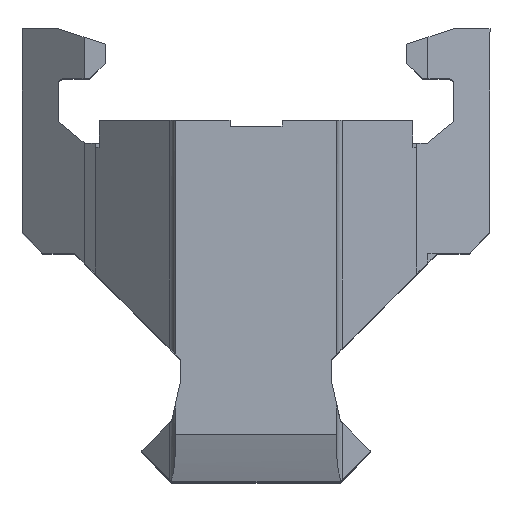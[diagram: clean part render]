
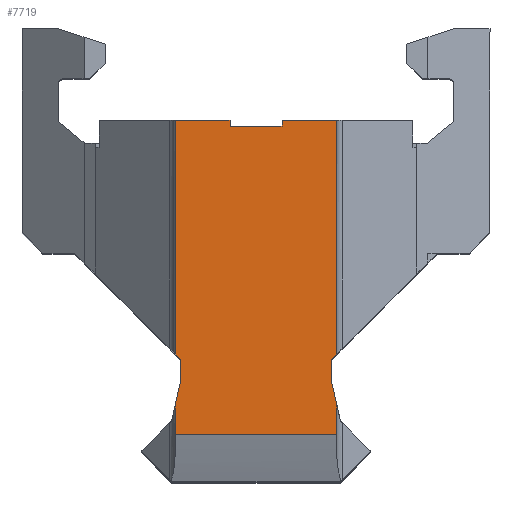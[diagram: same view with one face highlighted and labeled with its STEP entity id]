
A CAD part, top view. The second image highlights one B-rep face of the part: STEP entity #7719.
In plain terms, the highlighted planar face has unit normal (0, 0, 1).
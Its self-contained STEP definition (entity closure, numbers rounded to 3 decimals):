
#1120=FACE_OUTER_BOUND('',#1543,.T.);
#1543=EDGE_LOOP('',(#6987,#6988,#6989,#6990,#6991,#6992,#6993,#6994,#6995,
#6996,#6997,#6998,#6999,#7000,#7001,#7002));
#1658=LINE('',#9952,#2340);
#1985=LINE('',#13911,#2667);
#2019=LINE('',#13988,#2701);
#2022=LINE('',#13996,#2704);
#2058=LINE('',#14076,#2740);
#2059=LINE('',#14079,#2741);
#2126=LINE('',#14224,#2808);
#2127=LINE('',#14227,#2809);
#2129=LINE('',#14233,#2811);
#2217=LINE('',#14412,#2899);
#2218=LINE('',#14413,#2900);
#2219=LINE('',#14415,#2901);
#2220=LINE('',#14417,#2902);
#2221=LINE('',#14419,#2903);
#2222=LINE('',#14420,#2904);
#2223=LINE('',#14421,#2905);
#2340=VECTOR('',#8344,10.);
#2667=VECTOR('',#9159,10.);
#2701=VECTOR('',#9221,10.);
#2704=VECTOR('',#9228,10.);
#2740=VECTOR('',#9312,10.);
#2741=VECTOR('',#9315,10.);
#2808=VECTOR('',#9436,10.);
#2809=VECTOR('',#9439,10.);
#2811=VECTOR('',#9445,10.);
#2899=VECTOR('',#9647,10.);
#2900=VECTOR('',#9648,10.);
#2901=VECTOR('',#9649,10.);
#2902=VECTOR('',#9650,10.);
#2903=VECTOR('',#9651,10.);
#2904=VECTOR('',#9652,10.);
#2905=VECTOR('',#9653,10.);
#3018=VERTEX_POINT('',#9949);
#3019=VERTEX_POINT('',#9951);
#3530=VERTEX_POINT('',#13908);
#3531=VERTEX_POINT('',#13910);
#3560=VERTEX_POINT('',#13986);
#3563=VERTEX_POINT('',#13994);
#3583=VERTEX_POINT('',#14074);
#3584=VERTEX_POINT('',#14078);
#3632=VERTEX_POINT('',#14217);
#3635=VERTEX_POINT('',#14222);
#3636=VERTEX_POINT('',#14226);
#3638=VERTEX_POINT('',#14232);
#3672=VERTEX_POINT('',#14411);
#3673=VERTEX_POINT('',#14414);
#3674=VERTEX_POINT('',#14416);
#3675=VERTEX_POINT('',#14418);
#3789=EDGE_CURVE('',#3019,#3018,#1658,.T.);
#4551=EDGE_CURVE('',#3530,#3531,#1985,.T.);
#4590=EDGE_CURVE('',#3530,#3560,#2019,.T.);
#4594=EDGE_CURVE('',#3563,#3560,#2022,.T.);
#4634=EDGE_CURVE('',#3531,#3583,#2058,.T.);
#4635=EDGE_CURVE('',#3584,#3583,#2059,.T.);
#4708=EDGE_CURVE('',#3632,#3635,#2126,.T.);
#4709=EDGE_CURVE('',#3636,#3019,#2127,.T.);
#4712=EDGE_CURVE('',#3638,#3636,#2129,.T.);
#4802=EDGE_CURVE('',#3563,#3672,#2217,.T.);
#4803=EDGE_CURVE('',#3632,#3672,#2218,.T.);
#4804=EDGE_CURVE('',#3635,#3673,#2219,.T.);
#4805=EDGE_CURVE('',#3673,#3674,#2220,.T.);
#4806=EDGE_CURVE('',#3674,#3675,#2221,.T.);
#4807=EDGE_CURVE('',#3675,#3638,#2222,.T.);
#4808=EDGE_CURVE('',#3018,#3584,#2223,.T.);
#6987=ORIENTED_EDGE('',*,*,#4802,.T.);
#6988=ORIENTED_EDGE('',*,*,#4803,.F.);
#6989=ORIENTED_EDGE('',*,*,#4708,.T.);
#6990=ORIENTED_EDGE('',*,*,#4804,.T.);
#6991=ORIENTED_EDGE('',*,*,#4805,.T.);
#6992=ORIENTED_EDGE('',*,*,#4806,.T.);
#6993=ORIENTED_EDGE('',*,*,#4807,.T.);
#6994=ORIENTED_EDGE('',*,*,#4712,.T.);
#6995=ORIENTED_EDGE('',*,*,#4709,.T.);
#6996=ORIENTED_EDGE('',*,*,#3789,.T.);
#6997=ORIENTED_EDGE('',*,*,#4808,.T.);
#6998=ORIENTED_EDGE('',*,*,#4635,.T.);
#6999=ORIENTED_EDGE('',*,*,#4634,.F.);
#7000=ORIENTED_EDGE('',*,*,#4551,.F.);
#7001=ORIENTED_EDGE('',*,*,#4590,.T.);
#7002=ORIENTED_EDGE('',*,*,#4594,.F.);
#7313=PLANE('',#8160);
#7719=ADVANCED_FACE('',(#1120),#7313,.T.);
#8160=AXIS2_PLACEMENT_3D('',#14410,#9645,#9646);
#8344=DIRECTION('',(0.707,-0.707,0.));
#9159=DIRECTION('',(0.,-1.,0.));
#9221=DIRECTION('',(1.,0.,0.));
#9228=DIRECTION('',(0.,-1.,0.));
#9312=DIRECTION('',(1.,0.,0.));
#9315=DIRECTION('',(0.,1.,0.));
#9436=DIRECTION('',(-1.,0.,0.));
#9439=DIRECTION('',(1.,0.,0.));
#9445=DIRECTION('',(0.976,0.218,0.));
#9645=DIRECTION('center_axis',(0.,0.,
1.));
#9646=DIRECTION('ref_axis',(1.,0.,0.));
#9647=DIRECTION('',(-1.,0.,0.));
#9648=DIRECTION('',(0.707,0.707,0.));
#9649=DIRECTION('',(-0.976,0.218,0.));
#9650=DIRECTION('',(-1.,0.,0.));
#9651=DIRECTION('',(0.,-1.,0.));
#9652=DIRECTION('',(1.,0.,0.));
#9653=DIRECTION('',(1.,0.,0.));
#9949=CARTESIAN_POINT('',(-40.812,-237.75,169.3));
#9951=CARTESIAN_POINT('',(-41.35,-237.212,169.3));
#9952=CARTESIAN_POINT('',(-31.104,-247.458,169.3));
#13908=CARTESIAN_POINT('',(-18.904,-227.5,169.3));
#13910=CARTESIAN_POINT('',(-18.904,-232.5,169.3));
#13911=CARTESIAN_POINT('',(-18.904,-233.875,169.3));
#13986=CARTESIAN_POINT('',(-18.354,-227.5,169.3));
#13988=CARTESIAN_POINT('',(-23.729,-227.5,169.3));
#13994=CARTESIAN_POINT('',(-18.354,-222.25,169.3));
#13996=CARTESIAN_POINT('',(-18.354,-222.25,169.3));
#14074=CARTESIAN_POINT('',(-18.354,-232.5,169.3));
#14076=CARTESIAN_POINT('',(-23.729,-232.5,169.3));
#14078=CARTESIAN_POINT('',(-18.354,-237.75,169.3));
#14079=CARTESIAN_POINT('',(-18.354,-237.75,169.3));
#14217=CARTESIAN_POINT('',(-41.35,-222.788,169.3));
#14222=CARTESIAN_POINT('',(-43.214,-222.788,169.3));
#14224=CARTESIAN_POINT('',(-37.247,-222.788,169.3));
#14226=CARTESIAN_POINT('',(-43.214,-237.212,169.3));
#14227=CARTESIAN_POINT('',(-38.538,-237.212,169.3));
#14232=CARTESIAN_POINT('',(-45.618,-237.75,169.3));
#14233=CARTESIAN_POINT('',(-40.004,-236.493,169.3));
#14410=CARTESIAN_POINT('Origin',(-33.862,-230.,169.3));
#14411=CARTESIAN_POINT('',(-40.812,-222.25,169.3));
#14412=CARTESIAN_POINT('',(-26.108,-222.25,169.3));
#14413=CARTESIAN_POINT('',(-31.104,-212.542,169.3));
#14414=CARTESIAN_POINT('',(-45.618,-222.25,169.3));
#14415=CARTESIAN_POINT('',(-39.702,-223.574,169.3));
#14416=CARTESIAN_POINT('',(-48.572,-222.25,169.3));
#14417=CARTESIAN_POINT('',(-26.108,-222.25,169.3));
#14418=CARTESIAN_POINT('',(-48.572,-237.75,169.3));
#14419=CARTESIAN_POINT('',(-48.572,-233.784,169.3));
#14420=CARTESIAN_POINT('',(-26.108,-237.75,169.3));
#14421=CARTESIAN_POINT('',(-26.108,-237.75,169.3));
